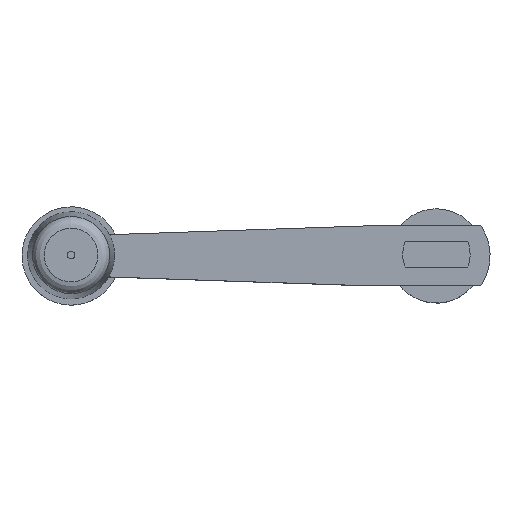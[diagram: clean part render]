
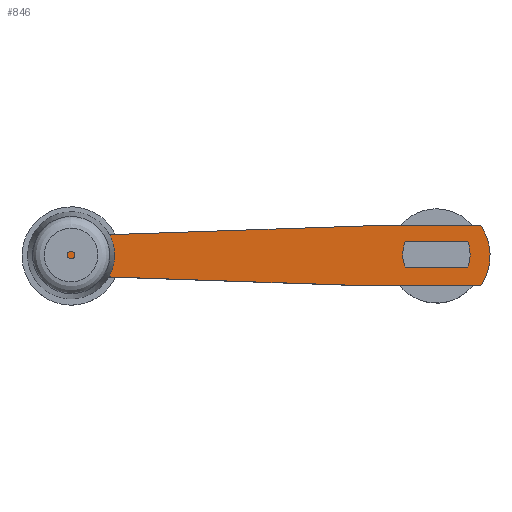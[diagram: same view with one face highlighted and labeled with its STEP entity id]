
A CAD part, top view. The second image highlights one B-rep face of the part: STEP entity #846.
In plain terms, the highlighted free-form (B-spline) face has degree [1, 1] with [2, 2] control points.
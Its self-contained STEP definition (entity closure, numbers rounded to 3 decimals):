
#791=CARTESIAN_POINT('',(-185.656,-31.029,40.));
#792=CARTESIAN_POINT('',(-185.656,192.189,40.));
#793=CARTESIAN_POINT('',(37.561,-31.029,40.));
#794=CARTESIAN_POINT('',(37.561,192.189,40.));
#795=B_SPLINE_SURFACE_WITH_KNOTS('',1,1,((#791,#792),(#793,#794)),.PLANE_SURF.,.F.,.F.,.U.,(2,2),(2,2),(0.,1.),(0.,1.),.UNSPECIFIED.);
#796=CARTESIAN_POINT('',(18.866,-12.7,40.));
#797=VERTEX_POINT('',#796);
#798=CARTESIAN_POINT('',(18.866,12.7,40.));
#799=VERTEX_POINT('',#798);
#800=CARTESIAN_POINT('',(18.866,-12.7,40.));
#801=CARTESIAN_POINT('',(27.415,0.,40.));
#802=CARTESIAN_POINT('',(18.866,12.7,40.));
#803=(BOUNDED_CURVE()B_SPLINE_CURVE(2,(#800,#801,#802),.CIRCULAR_ARC.,.F.,.U.)B_SPLINE_CURVE_WITH_KNOTS((3,3),(0.,1.),.UNSPECIFIED.)CURVE()GEOMETRIC_REPRESENTATION_ITEM()RATIONAL_B_SPLINE_CURVE((1.,0.83,1.))REPRESENTATION_ITEM(''));
#804=EDGE_CURVE('',#797,#799,#803,.T.);
#805=ORIENTED_EDGE('',*,*,#804,.T.);
#806=CARTESIAN_POINT('',(-29.762,12.7,40.));
#807=VERTEX_POINT('',#806);
#808=CARTESIAN_POINT('',(18.866,12.7,40.));
#809=CARTESIAN_POINT('',(-29.762,12.7,40.));
#810=B_SPLINE_CURVE_WITH_KNOTS('',1,(#808,#809),.POLYLINE_FORM.,.F.,.U.,(2,2),(0.,1.),.UNSPECIFIED.);
#811=EDGE_CURVE('',#799,#807,#810,.T.);
#812=ORIENTED_EDGE('',*,*,#811,.T.);
#813=CARTESIAN_POINT('',(-143.382,8.805,40.));
#814=VERTEX_POINT('',#813);
#815=CARTESIAN_POINT('',(-29.762,12.7,40.));
#816=CARTESIAN_POINT('',(-143.382,8.805,40.));
#817=B_SPLINE_CURVE_WITH_KNOTS('',1,(#815,#816),.POLYLINE_FORM.,.F.,.U.,(2,2),(0.,1.),.UNSPECIFIED.);
#818=EDGE_CURVE('',#807,#814,#817,.T.);
#819=ORIENTED_EDGE('',*,*,#818,.T.);
#820=CARTESIAN_POINT('',(-143.393,-8.805,40.));
#821=VERTEX_POINT('',#820);
#822=CARTESIAN_POINT('',(-143.382,8.805,40.));
#823=CARTESIAN_POINT('',(-152.9,20.895,40.));
#824=CARTESIAN_POINT('',(-164.205,10.458,40.));
#825=CARTESIAN_POINT('',(-175.51,0.02,40.));
#826=CARTESIAN_POINT('',(-164.218,-10.431,40.));
#827=CARTESIAN_POINT('',(-152.926,-20.882,40.));
#828=CARTESIAN_POINT('',(-143.393,-8.805,40.));
#829=(BOUNDED_CURVE()B_SPLINE_CURVE(2,(#822,#823,#824,#825,#826,#827,#828),.CIRCULAR_ARC.,.F.,.U.)B_SPLINE_CURVE_WITH_KNOTS((3,2,2,3),(0.,0.333,0.667,1.),.UNSPECIFIED.)CURVE()GEOMETRIC_REPRESENTATION_ITEM()RATIONAL_B_SPLINE_CURVE((1.,0.679,1.,0.679,1.,0.679,1.))REPRESENTATION_ITEM(''));
#830=EDGE_CURVE('',#814,#821,#829,.T.);
#831=ORIENTED_EDGE('',*,*,#830,.T.);
#832=CARTESIAN_POINT('',(-29.762,-12.7,40.));
#833=VERTEX_POINT('',#832);
#834=CARTESIAN_POINT('',(-143.393,-8.805,40.));
#835=CARTESIAN_POINT('',(-29.762,-12.7,40.));
#836=B_SPLINE_CURVE_WITH_KNOTS('',1,(#834,#835),.POLYLINE_FORM.,.F.,.U.,(2,2),(0.,1.),.UNSPECIFIED.);
#837=EDGE_CURVE('',#821,#833,#836,.T.);
#838=ORIENTED_EDGE('',*,*,#837,.T.);
#839=CARTESIAN_POINT('',(-29.762,-12.7,40.));
#840=CARTESIAN_POINT('',(18.866,-12.7,40.));
#841=B_SPLINE_CURVE_WITH_KNOTS('',1,(#839,#840),.POLYLINE_FORM.,.F.,.U.,(2,2),(0.,1.),.UNSPECIFIED.);
#842=EDGE_CURVE('',#833,#797,#841,.T.);
#843=ORIENTED_EDGE('',*,*,#842,.T.);
#844=EDGE_LOOP('',(#805,#812,#819,#831,#838,#843));
#845=FACE_OUTER_BOUND('',#844,.T.);
#846=ADVANCED_FACE('',(#845),#795,.T.);
